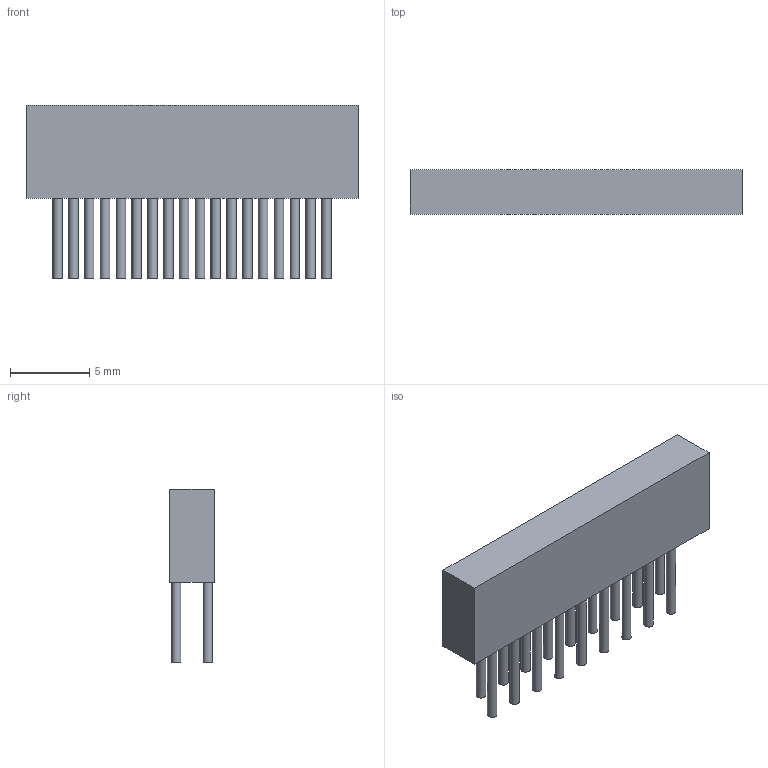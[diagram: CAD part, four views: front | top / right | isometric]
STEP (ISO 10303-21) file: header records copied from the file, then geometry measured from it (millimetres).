
FILE_DESCRIPTION(('FreeCAD Model'),'2;1');
FILE_NAME('/var/www/3D/0T/21999304.1.3.stp','2026-05-31T13:54:01',( 'Author'),(''),'Open CASCADE STEP processor 6.9','FreeCAD','Unknown' );
FILE_SCHEMA(('AUTOMOTIVE_DESIGN { 1 0 10303 214 1 1 1 1 }'));
Length unit declared in the file: millimetre
Products named in the file (3): ASSEMBLY; Body; Leads
Assembly tree (2 placements, depth 2):
  ASSEMBLY
    Body
    Leads
Bounding box: 21 x 2.8 x 10.99 mm (x, y, z)
Volume: 372.5 mm3; surface area: 581.3 mm2
Topology: 19 solids, 19 shells, 60 faces, 66 edges, 44 vertices
Faces by surface type: plane 42, cylinder 18
Full cylindrical faces by diameter (mm): 0.6 x18
Entity records: 2189 total; most frequent: DIRECTION 360, CARTESIAN_POINT 305, ORIENTED_EDGE 132, PCURVE 132, DEFINITIONAL_REPRESENTATION 132, LINE 126, VECTOR 126, AXIS2_PLACEMENT_3D 99
